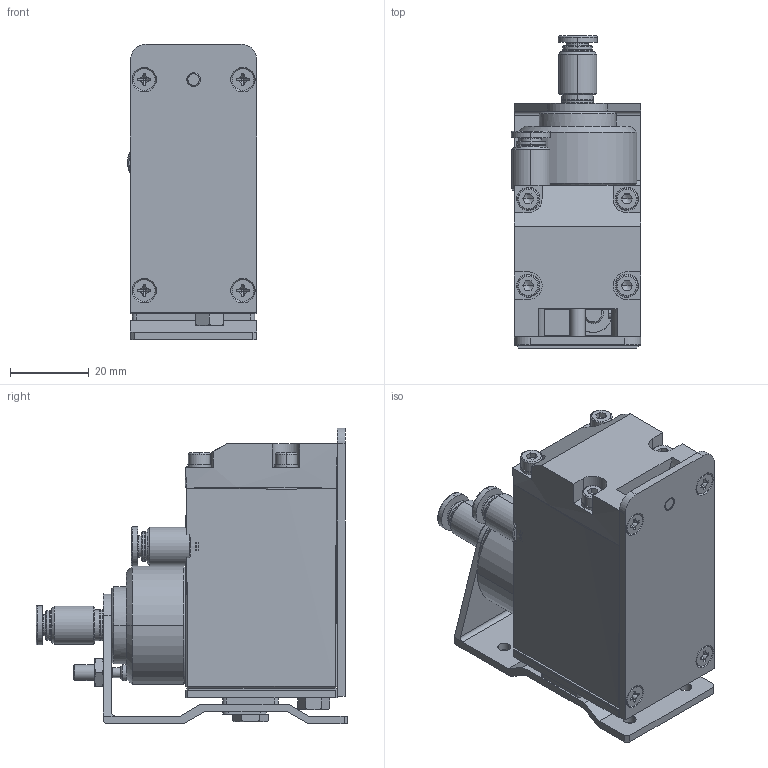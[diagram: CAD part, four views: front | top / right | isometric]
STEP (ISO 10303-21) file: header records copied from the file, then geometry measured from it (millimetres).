
FILE_DESCRIPTION (( 'STEP AP214' ), '1' );
FILE_NAME ('GT-NT05R-4.STEP', '2019-11-27T08:42:54', ( '微软用户' ), ( '微软中国' ), 'SwSTEP 2.0', 'SolidWorks 2016', '' );
FILE_SCHEMA (( 'AUTOMOTIVE_DESIGN' ));
Length unit declared in the file: millimetre
Products named in the file (1): GT-NT05R-4
Bounding box: 32.8 x 79.1 x 75 mm (x, y, z)
Surface area: 33517.4 mm2 (no closed solid volume)
Topology: 0 solids, 42 shells, 1064 faces, 2623 edges, 1656 vertices
Faces by surface type: plane 466, cylinder 279, bspline 219, cone 68, torus 32
Entity records: 47980 total; most frequent: CARTESIAN_POINT 19050, ORIENTED_EDGE 5106, DIRECTION 4202, EDGE_CURVE 2587, VERTEX_POINT 1656, AXIS2_PLACEMENT_3D 1576, EDGE_LOOP 1199, ADVANCED_FACE 1064
